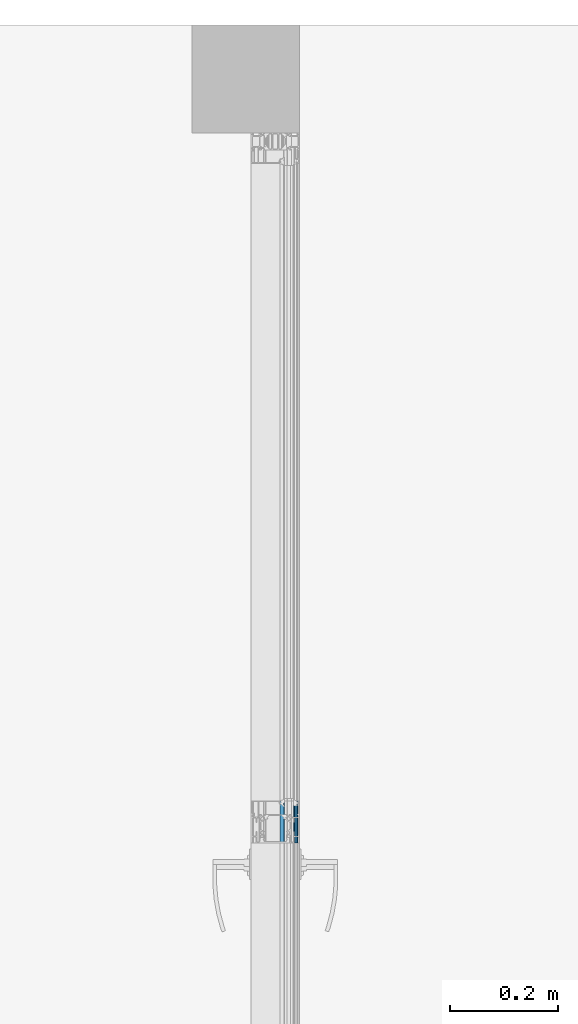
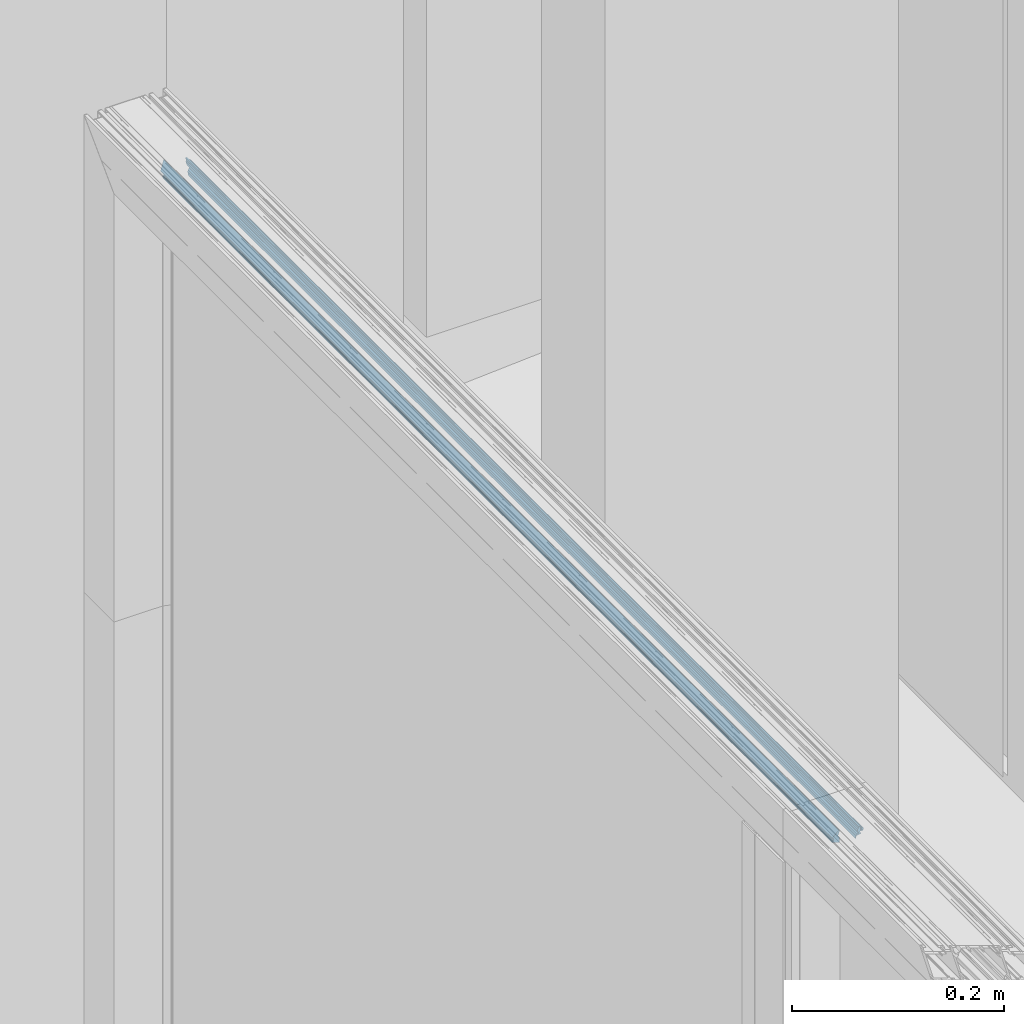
# One storey, part 55 of 89: 1 building element part, 2 elements without a shape of their own.
"""IFC2X3 building model written with IfcOpenShell, lengths in millimetres."""

from ifc_helpers import new_model, entity, si_unit, converted_unit, derived_unit, money_unit, direction, frame, origin_with_axes, place, context, subcontext, project, spatial, faceted_brep, material, type_object, element, aggregate, save


model = new_model("IFC2X3")

# Units and contexts
model_context = context("Model", 3, precision=0.01, world=origin_with_axes(), true_north=direction((0.0, 1.0)))
body_context = subcontext(model_context, "Body", "Model", "MODEL_VIEW")
ifc_project = project(units=[si_unit("LENGTHUNIT", "METRE", prefix="MILLI"), si_unit("AREAUNIT", "SQUARE_METRE"), si_unit("VOLUMEUNIT", "CUBIC_METRE"), converted_unit("PLANEANGLEUNIT", "DEGREE", entity("IfcPlaneAngleMeasure", 0.0174532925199), si_unit("PLANEANGLEUNIT", "RADIAN"), dimensions=[0, 0, 0, 0, 0, 0, 0]), si_unit("SOLIDANGLEUNIT", "STERADIAN"), money_unit("EUR"), converted_unit("TIMEUNIT", "Year", entity("IfcTimeMeasure", 31556926.0), si_unit("TIMEUNIT", "SECOND"), dimensions=[0, 0, 1, 0, 0, 0, 0]), si_unit("MASSUNIT", "GRAM", prefix="KILO"), si_unit("THERMODYNAMICTEMPERATUREUNIT", "DEGREE_CELSIUS"), si_unit("LUMINOUSINTENSITYUNIT", "LUMEN"), si_unit("ENERGYUNIT", "JOULE", prefix="MEGA"), derived_unit("THERMALCONDUCTANCEUNIT", [(si_unit("POWERUNIT", "WATT"), 1), (si_unit("LENGTHUNIT", "METRE"), -1), (si_unit("THERMODYNAMICTEMPERATUREUNIT", "KELVIN"), -1)]), derived_unit("SPECIFICHEATCAPACITYUNIT", [(si_unit("ENERGYUNIT", "JOULE"), 1), (si_unit("MASSUNIT", "GRAM", prefix="KILO"), -1), (si_unit("THERMODYNAMICTEMPERATUREUNIT", "KELVIN"), -1)]), derived_unit("MASSDENSITYUNIT", [(si_unit("MASSUNIT", "GRAM", prefix="KILO"), 1), (si_unit("VOLUMEUNIT", "CUBIC_METRE"), -1)])], contexts=[model_context])

# Site, building, storey
site_placement = place(None, origin_with_axes())
site = spatial("IfcSite", under=ifc_project, at=site_placement, Name="Puškini 31, Narva", CompositionType="ELEMENT")
building_placement = place(site_placement, origin_with_axes())
building = spatial("IfcBuilding", under=site, at=building_placement, Name="Narva Riigigümnaasium", CompositionType="ELEMENT")
storey_placement = place(building_placement, frame((0.0, 0.0, -3300.0), z_axis=(0.0, 0.0, 1.0), x_axis=(1.0, 0.0, 0.0)))
storey = spatial("IfcBuildingStorey", under=building, at=storey_placement, Name="1.korrus -3.3", CompositionType="ELEMENT", Elevation=-3300.0)

# Curtain wall, member, building element part
curtain_wall_type = type_object("IfcCurtainWallType", Name="Curtain Wall Type", PredefinedType="NOTDEFINED")
curtain_wall_placement = place(storey_placement, frame((34855.0104166, 221770.599999, -2.45869391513e-05), z_axis=(0.0, 0.0, 1.0), x_axis=(1.0, 0.0, 0.0)))
curtain_wall = element("IfcCurtainWall", 1, at=curtain_wall_placement, inside=storey, type_object=curtain_wall_type, Name="G-SKLF-08")
member_type = type_object("IfcMemberType", Name="61 x 45", PredefinedType="MULLION")
member_placement = place(curtain_wall_placement, frame((-0.00873769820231, 2029.40000644, 2950.00000756), z_axis=(4.30555739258e-06, -0.999999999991, 1.29027104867e-08), x_axis=(0.0, -1.29027104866e-08, -1.0)))
member = element("IfcMember", 2, at=member_placement, type_object=member_type, Name="G-SKLF-08-raam", ObjectType="MULLION")
aggregate(curtain_wall, [member])
ifc_material = material(Name="Membraan - Veekindel")
building_element_part_placement = place(member_placement, origin_with_axes())
building_element_part = element("IfcBuildingElementPart", 3, at=building_element_part_placement, material=ifc_material, Name="Membraan - Veekindel", context=body_context, shape_type="Brep", body=[
    faceted_brep([(59.5800222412, 34.73794757, 59.5800214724), (59.5800222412, 34.73794757, 1320.00000685), (61.0413385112, 34.3890442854, 1320.00000685), (61.0413385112, 34.3890442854, 61.0413377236), (58.4755028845, 35.3628499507, 58.47550213), (58.4755028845, 35.3628499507, 1320.00000685), (57.9693613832, 36.5265882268, 1320.00000685), (57.7000324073, 39.5999584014, 1320.00000685), (57.6464370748, 39.799971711, 1320.00000685), (57.5000161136, 39.946391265, 1320.00000685), (57.3000022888, 39.9999846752, 1320.00000685), (57.3000022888, 39.1999494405, 1320.00000685), (55.3000210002, 39.1999606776, 1320.00000685), (55.2330337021, 38.9499606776, 1320.00000685), (55.0500210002, 38.7669479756, 1320.00000685), (54.8000210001, 38.6999606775, 1320.00000685), (54.5500210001, 38.7669479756, 1320.00000685), (54.3670082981, 38.9499606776, 1320.00000685), (54.300021, 39.1999606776, 1320.00000685), (54.300021, 40.4999366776, 1320.00000685), (54.3402133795, 40.6499366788, 1320.00000685), (54.4500210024, 40.7597443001, 1320.00000685), (54.6000210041, 40.7999366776, 1320.00000685), (54.7000173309, 40.7999366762, 1320.00000685), (54.866675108, 40.850483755, 1320.00000685), (54.9771753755, 40.9850924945, 1320.00000685), (54.9942836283, 41.1584047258, 1320.00000685), (54.9122350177, 41.3120206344, 1320.00000685), (53.8716106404, 42.3533776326, 1320.00000685), (53.7093558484, 42.4618547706, 1320.00000685), (53.517932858, 42.4999486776, 1320.00000685), (51.8818844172, 42.4999486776, 1320.00000685), (51.6904310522, 42.4618421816, 1320.00000685), (51.5281601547, 42.3533311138, 1320.00000685), (50.4878083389, 41.3119729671, 1320.00000685), (50.4057850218, 41.1583618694, 1320.00000685), (50.4229059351, 40.9850671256, 1320.00000685), (50.5334025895, 40.8504763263, 1320.00000685), (50.7000457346, 40.7999366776, 1320.00000685), (50.80004, 40.7999366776, 1320.00000685), (50.95004, 40.7597442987, 1320.00000685), (51.0598476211, 40.6499366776, 1320.00000685), (51.10004, 40.4999366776, 1320.00000685), (51.10004, 39.1999550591, 1320.00000685), (51.0330541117, 38.9499546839, 1320.00000685), (50.8500424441, 38.7669409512, 1320.00000685), (50.6000428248, 38.699952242, 1320.00000685), (50.3500424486, 38.7669381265, 1320.00000685), (50.1670287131, 38.9499497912, 1320.00000685), (50.10004, 39.1999494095, 1320.00000685), (48.7206527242, 39.1999494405, 1320.00000685), (48.7206527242, 38.0023809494, 1320.00000685), (48.7876400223, 37.7523809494, 1320.00000685), (48.9706527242, 37.5693682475, 1320.00000685), (49.2206527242, 37.5023809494, 1320.00000685), (50.3319753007, 37.5023809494, 1320.00000685), (50.5819753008, 37.4353936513, 1320.00000685), (50.7649880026, 37.2523809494, 1320.00000685), (51.1691331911, 36.5523809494, 1320.00000685), (51.352145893, 36.3693682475, 1320.00000685), (51.602145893, 36.3023809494, 1320.00000685), (53.8391557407, 36.3023809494, 1320.00000685), (54.0891557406, 36.3693682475, 1320.00000685), (54.2721684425, 36.5523809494, 1320.00000685), (54.676313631, 37.2523809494, 1320.00000685), (54.8593263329, 37.4353936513, 1320.00000685), (55.1093263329, 37.5023809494, 1320.00000685), (55.7607444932, 37.5023809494, 1320.00000685), (55.9795989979, 37.4519392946, 1320.00000685), (56.1542959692, 37.3107917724, 1320.00000685), (56.2495873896, 37.1074172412, 1320.00000685), (56.9567944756, 35.6067920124, 1320.00000685), (58.2346494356, 34.5489145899, 1320.00000685), (59.8409257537, 34.1343131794, 1320.00000685), (60.7381535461, 33.9217644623, 1320.00000685), (61.0108941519, 33.784859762, 1320.00000685), (61.1423164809, 33.9681748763, 1320.00000685), (61.1536677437, 34.1934467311, 1320.00000685), (53.5000340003, 40.7999553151, 1320.00000685), (53.433048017, 39.44993177, 1320.00000685), (53.2500389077, 39.2669226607, 1320.00000685), (53.0000438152, 39.1999366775, 1320.00000685), (52.4000171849, 39.1999366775, 1320.00000685), (52.1500220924, 39.2669226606, 1320.00000685), (51.9670129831, 39.4499317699, 1320.00000685), (51.9000269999, 39.6999268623, 1320.00000685), (51.9000269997, 40.799955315, 1320.00000685), (51.9670118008, 41.0499459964, 1320.00000685), (52.150017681, 41.2329518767, 1320.00000685), (52.4000083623, 41.299936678, 1320.00000685), (53.0000526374, 41.299936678, 1320.00000685), (53.2500433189, 41.2329518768, 1320.00000685), (53.4330491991, 41.0499459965, 1320.00000685), (61.1536677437, 34.1934467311, 61.1536669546), (61.1423164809, 33.9681748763, 61.142315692), (61.0108941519, 33.784859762, 61.0108933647), (60.7381535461, 33.9217644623, 60.7381527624), (59.8409257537, 34.1343131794, 59.8409249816), (58.2346494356, 34.5489145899, 58.2346486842), (56.9567944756, 35.6067920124, 56.9567937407), (56.2495873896, 37.1074172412, 56.2495866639), (56.1542959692, 37.3107917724, 56.1542952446), (55.9795989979, 37.4519392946, 55.9795982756), (55.7607444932, 37.5023809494, 55.7607437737), (55.1093263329, 37.5023809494, 55.1093256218), (54.8593263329, 37.4353936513, 54.859325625), (54.676313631, 37.2523809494, 54.6763129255), (54.2721684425, 36.5523809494, 54.2721677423), (54.0891557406, 36.3693682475, 54.0891550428), (53.8391557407, 36.3023809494, 53.839155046), (51.602145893, 36.3023809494, 51.6021452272), (51.352145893, 36.3693682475, 51.3521452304), (51.1691331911, 36.5523809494, 51.1691325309), (50.7649880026, 37.2523809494, 50.7649873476), (50.5819753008, 37.4353936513, 50.5819746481), (50.3319753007, 37.5023809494, 50.3319746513), (49.2206527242, 37.5023809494, 49.2206520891), (48.9706527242, 37.5693682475, 48.9706520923), (48.7876400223, 37.7523809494, 48.7876393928), (48.7206527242, 38.0023809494, 48.7206520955), (48.7206527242, 39.1999494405, 48.7206520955), (50.10004, 39.1999494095, 50.1000393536), (50.1670287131, 38.9499497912, 50.1670280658), (50.3500424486, 38.7669381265, 50.3500417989), (50.6000428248, 38.699952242, 50.6000421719), (50.8500424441, 38.7669409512, 50.850041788), (51.0330541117, 38.9499546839, 51.0330534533), (51.10004, 39.1999550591, 51.1000393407), (51.10004, 40.4999366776, 51.1000393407), (51.0598476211, 40.6499366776, 51.0598469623), (50.95004, 40.7597442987, 50.9500393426), (50.80004, 40.7999366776, 50.8000393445), (50.7000457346, 40.7999366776, 50.7000450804), (50.5334025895, 40.8504763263, 50.5334019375), (50.4229059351, 40.9850671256, 50.4229052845), (50.4057850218, 41.1583618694, 50.4057843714), (50.4878083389, 41.3119729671, 50.4878076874), (51.5281601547, 42.3533311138, 51.5281594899), (51.6904310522, 42.4618421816, 51.6904303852), (51.8818844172, 42.4999486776, 51.8818837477), (53.517932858, 42.4999486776, 53.5179321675), (53.7093558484, 42.4618547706, 53.7093551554), (53.8716106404, 42.3533776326, 53.8716099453), (54.9122350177, 41.3120206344, 54.9122343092), (54.9942836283, 41.1584047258, 54.9942829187), (54.9771753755, 40.9850924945, 54.9771746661), (54.866675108, 40.850483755, 54.8666744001), (54.7000173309, 40.7999366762, 54.7000166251), (54.6000210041, 40.7999366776, 54.6000202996), (54.4500210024, 40.7597443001, 54.4500202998), (54.3402133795, 40.6499366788, 54.3402126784), (54.300021, 40.4999366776, 54.3000202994), (54.300021, 39.1999606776, 54.3000202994), (54.3670082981, 38.9499606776, 54.3670075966), (54.5500210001, 38.7669479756, 54.5500202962), (54.8000210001, 38.6999606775, 54.800020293), (55.0500210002, 38.7669479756, 55.0500202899), (55.2330337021, 38.9499606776, 55.2330329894), (55.3000210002, 39.1999606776, 55.3000202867), (57.3000022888, 39.1999494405, 57.3000015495), (57.3000022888, 39.9999846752, 57.3000015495), (57.5000161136, 39.946391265, 57.5000153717), (57.6464370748, 39.799971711, 57.6464363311), (57.7000324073, 39.5999584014, 57.7000316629), (57.9693613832, 36.5265882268, 57.9693606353), (53.5000340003, 40.7999553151, 53.5000333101), (53.4330491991, 41.0499459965, 53.4330485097), (53.2500433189, 41.2329518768, 53.2500426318), (53.0000526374, 41.299936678, 53.0000519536), (52.4000083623, 41.299936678, 52.4000076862), (52.150017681, 41.2329518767, 52.1500170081), (51.9670118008, 41.0499459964, 51.9670111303), (51.9000269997, 40.799955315, 51.90002633), (51.9000269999, 39.6999268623, 51.9000263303), (51.9670129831, 39.4499317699, 51.9670123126), (52.1500220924, 39.2669226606, 52.1500214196), (52.4000171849, 39.1999366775, 52.4000165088), (53.0000438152, 39.1999366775, 53.0000431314), (53.2500389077, 39.2669226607, 53.2500382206), (53.433048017, 39.44993177, 53.4330473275)], [[[0, 1, 2, 3]], [[4, 5, 1, 0]], [[2, 1, 5, 6, 7, 8, 9, 10, 11, 12, 13, 14, 15, 16, 17, 18, 19, 20, 21, 22, 23, 24, 25, 26, 27, 28, 29, 30, 31, 32, 33, 34, 35, 36, 37, 38, 39, 40, 41, 42, 43, 44, 45, 46, 47, 48, 49, 50, 51, 52, 53, 54, 55, 56, 57, 58, 59, 60, 61, 62, 63, 64, 65, 66, 67, 68, 69, 70, 71, 72, 73, 74, 75, 76, 77], [78, 79, 80, 81, 82, 83, 84, 85, 86, 87, 88, 89, 90, 91, 92]], [[3, 2, 77, 93]], [[3, 93, 94, 95, 96, 97, 98, 99, 100, 101, 102, 103, 104, 105, 106, 107, 108, 109, 110, 111, 112, 113, 114, 115, 116, 117, 118, 119, 120, 121, 122, 123, 124, 125, 126, 127, 128, 129, 130, 131, 132, 133, 134, 135, 136, 137, 138, 139, 140, 141, 142, 143, 144, 145, 146, 147, 148, 149, 150, 151, 152, 153, 154, 155, 156, 157, 158, 159, 160, 161, 162, 163, 164, 4, 0], [165, 166, 167, 168, 169, 170, 171, 172, 173, 174, 175, 176, 177, 178, 179]], [[164, 6, 5, 4]], [[163, 7, 6, 164]], [[162, 8, 7, 163]], [[161, 9, 8, 162]], [[160, 10, 9, 161]], [[159, 11, 10, 160]], [[158, 12, 11, 159]], [[157, 13, 12, 158]], [[156, 14, 13, 157]], [[155, 15, 14, 156]], [[154, 16, 15, 155]], [[153, 17, 16, 154]], [[152, 18, 17, 153]], [[151, 19, 18, 152]], [[150, 20, 19, 151]], [[149, 21, 20, 150]], [[148, 22, 21, 149]], [[147, 23, 22, 148]], [[146, 24, 23, 147]], [[145, 25, 24, 146]], [[144, 26, 25, 145]], [[143, 27, 26, 144]], [[142, 28, 27, 143]], [[141, 29, 28, 142]], [[140, 30, 29, 141]], [[139, 31, 30, 140]], [[138, 32, 31, 139]], [[137, 33, 32, 138]], [[136, 34, 33, 137]], [[135, 35, 34, 136]], [[134, 36, 35, 135]], [[133, 37, 36, 134]], [[132, 38, 37, 133]], [[131, 39, 38, 132]], [[130, 40, 39, 131]], [[129, 41, 40, 130]], [[128, 42, 41, 129]], [[127, 43, 42, 128]], [[126, 44, 43, 127]], [[125, 45, 44, 126]], [[124, 46, 45, 125]], [[123, 47, 46, 124]], [[122, 48, 47, 123]], [[121, 49, 48, 122]], [[120, 50, 49, 121]], [[119, 51, 50, 120]], [[118, 52, 51, 119]], [[117, 53, 52, 118]], [[116, 54, 53, 117]], [[115, 55, 54, 116]], [[114, 56, 55, 115]], [[113, 57, 56, 114]], [[112, 58, 57, 113]], [[111, 59, 58, 112]], [[110, 60, 59, 111]], [[109, 61, 60, 110]], [[108, 62, 61, 109]], [[107, 63, 62, 108]], [[106, 64, 63, 107]], [[105, 65, 64, 106]], [[104, 66, 65, 105]], [[103, 67, 66, 104]], [[102, 68, 67, 103]], [[101, 69, 68, 102]], [[100, 70, 69, 101]], [[99, 71, 70, 100]], [[98, 72, 71, 99]], [[97, 73, 72, 98]], [[96, 74, 73, 97]], [[95, 75, 74, 96]], [[94, 76, 75, 95]], [[93, 77, 76, 94]], [[179, 79, 78, 165]], [[178, 80, 79, 179]], [[177, 81, 80, 178]], [[176, 82, 81, 177]], [[175, 83, 82, 176]], [[174, 84, 83, 175]], [[173, 85, 84, 174]], [[172, 86, 85, 173]], [[171, 87, 86, 172]], [[170, 88, 87, 171]], [[169, 89, 88, 170]], [[168, 90, 89, 169]], [[167, 91, 90, 168]], [[166, 92, 91, 167]], [[165, 78, 92, 166]]]),
    faceted_brep([(55.9926715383, 16.8063498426, 55.9926708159), (55.9926715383, 16.8063498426, 1320.00000685), (59.0307115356, 16.554149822, 1320.00000685), (59.0307115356, 16.554149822, 59.030710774), (53.7899070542, 16.6230039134, 53.7899063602), (53.7899070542, 16.6230039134, 1320.00000685), (53.1225200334, 16.3483062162, 1320.00000685), (51.5205025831, 15.0099586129, 1320.00000685), (51.3011765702, 14.8998814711, 1320.00000685), (51.0558924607, 14.9074036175, 1320.00000685), (50.8437237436, 15.0307134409, 1320.00000685), (50.5536994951, 15.2121179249, 1320.00000685), (46.298307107, 16.7340705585, 1320.00000685), (45.950966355, 16.7718696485, 1320.00000685), (45.6241929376, 16.6482027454, 1320.00000685), (45.3889077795, 16.3899097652, 1320.00000685), (45.3195226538, 16.2152275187, 1320.00000685), (45.3418968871, 15.7688623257, 1320.00000685), (45.6142070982, 15.4144760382, 1320.00000685), (51.8169217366, 8.74599822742, 1320.00000685), (51.938943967, 8.6326446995, 1320.00000685), (52.1026310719, 8.60190419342, 1320.00000685), (52.2574645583, 8.66326410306, 1320.00000685), (52.3556584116, 8.79778701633, 1320.00000685), (52.7761212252, 9.95299910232, 1320.00000685), (52.8859560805, 10.0961386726, 1320.00000685), (53.0580290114, 10.1503930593, 1320.00000685), (55.1123574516, 10.1503930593, 1320.00000685), (55.2731258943, 10.1036784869, 1320.00000685), (55.3838261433, 9.9780831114, 1320.00000685), (55.4099827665, 9.81272116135, 1320.00000685), (55.2940485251, 8.85237785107, 1320.00000685), (55.3307332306, 8.72753828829, 1320.00000685), (55.4168250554, 8.62997353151, 1320.00000685), (55.5361285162, 8.57803733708, 1320.00000685), (56.9361285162, 8.30590490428, 1320.00000685), (57.0661058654, 8.3093438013, 1320.00000685), (57.1824204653, 8.36745448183, 1320.00000685), (57.2632233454, 8.46932121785, 1320.00000685), (57.5418652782, 10.0035930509, 1320.00000685), (59.3405112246, 15.0012955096, 1320.00000685), (59.5001582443, 15.5494067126, 1320.00000685), (59.3884652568, 16.1092618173, 1320.00000685), (59.3884652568, 16.1092618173, 59.3884644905), (59.5001582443, 15.5494067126, 59.5001574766), (59.3405112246, 15.0012955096, 59.3405104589), (57.5418652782, 10.0035930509, 57.5418645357), (57.2632233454, 8.46932121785, 57.2632226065), (57.1824204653, 8.36745448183, 57.1824197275), (57.0661058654, 8.3093438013, 57.0661051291), (56.9361285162, 8.30590490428, 56.9361277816), (55.5361285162, 8.57803733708, 55.5361277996), (55.4168250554, 8.62997353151, 55.4168243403), (55.3307332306, 8.72753828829, 55.3307325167), (55.2940485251, 8.85237785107, 55.2940478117), (55.4099827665, 9.81272116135, 55.4099820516), (55.3838261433, 9.9780831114, 55.3838254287), (55.2731258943, 10.1036784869, 55.2731251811), (55.1123574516, 10.1503930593, 55.1123567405), (53.0580290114, 10.1503930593, 53.0580283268), (52.8859560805, 10.0961386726, 52.8859553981), (52.7761212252, 9.95299910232, 52.7761205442), (52.3556584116, 8.79778701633, 52.3556577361), (52.2574645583, 8.66326410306, 52.257463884), (52.1026310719, 8.60190419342, 52.1026303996), (51.938943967, 8.6326446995, 51.9389432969), (51.8169217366, 8.74599822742, 51.816921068), (45.6142070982, 15.4144760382, 45.6142065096), (45.3418968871, 15.7688623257, 45.341896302), (45.3195226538, 16.2152275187, 45.3195220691), (45.3889077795, 16.3899097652, 45.3889071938), (45.6241929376, 16.6482027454, 45.6241923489), (45.950966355, 16.7718696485, 45.9509657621), (46.298307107, 16.7340705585, 46.2983065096), (50.5536994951, 15.2121179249, 50.5536988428), (50.8437237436, 15.0307134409, 50.8437230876), (51.0558924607, 14.9074036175, 51.0558918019), (51.3011765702, 14.8998814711, 51.3011759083), (51.5205025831, 15.0099586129, 51.5205019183), (53.1225200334, 16.3483062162, 53.122519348)], [[[0, 1, 2, 3]], [[4, 5, 1, 0]], [[2, 1, 5, 6, 7, 8, 9, 10, 11, 12, 13, 14, 15, 16, 17, 18, 19, 20, 21, 22, 23, 24, 25, 26, 27, 28, 29, 30, 31, 32, 33, 34, 35, 36, 37, 38, 39, 40, 41, 42]], [[3, 2, 42, 43]], [[3, 43, 44, 45, 46, 47, 48, 49, 50, 51, 52, 53, 54, 55, 56, 57, 58, 59, 60, 61, 62, 63, 64, 65, 66, 67, 68, 69, 70, 71, 72, 73, 74, 75, 76, 77, 78, 79, 4, 0]], [[79, 6, 5, 4]], [[78, 7, 6, 79]], [[77, 8, 7, 78]], [[76, 9, 8, 77]], [[75, 10, 9, 76]], [[74, 11, 10, 75]], [[73, 12, 11, 74]], [[72, 13, 12, 73]], [[71, 14, 13, 72]], [[70, 15, 14, 71]], [[69, 16, 15, 70]], [[68, 17, 16, 69]], [[67, 18, 17, 68]], [[66, 19, 18, 67]], [[65, 20, 19, 66]], [[64, 21, 20, 65]], [[63, 22, 21, 64]], [[62, 23, 22, 63]], [[61, 24, 23, 62]], [[60, 25, 24, 61]], [[59, 26, 25, 60]], [[58, 27, 26, 59]], [[57, 28, 27, 58]], [[56, 29, 28, 57]], [[55, 30, 29, 56]], [[54, 31, 30, 55]], [[53, 32, 31, 54]], [[52, 33, 32, 53]], [[51, 34, 33, 52]], [[50, 35, 34, 51]], [[49, 36, 35, 50]], [[48, 37, 36, 49]], [[47, 38, 37, 48]], [[46, 39, 38, 47]], [[45, 40, 39, 46]], [[44, 41, 40, 45]], [[43, 42, 41, 44]]]),
])
aggregate(member, [building_element_part])

save(model, "model.ifc")
